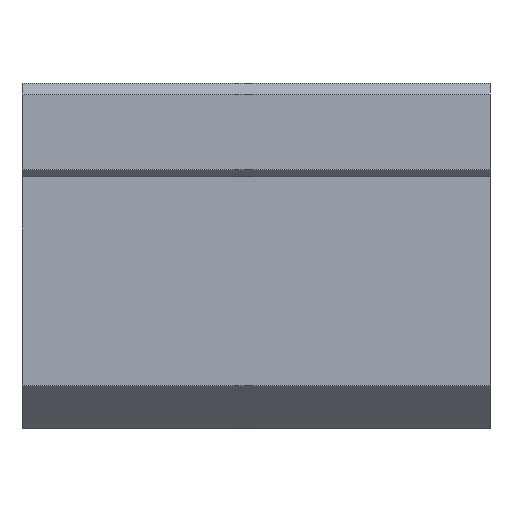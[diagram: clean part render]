
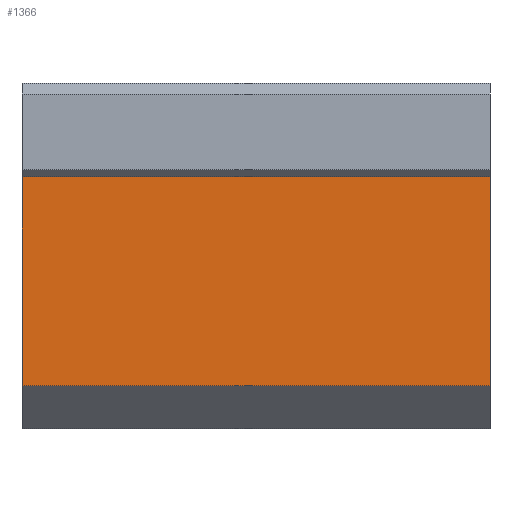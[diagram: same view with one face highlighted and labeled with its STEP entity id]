
A CAD part, front view. The second image highlights one B-rep face of the part: STEP entity #1366.
In plain terms, the highlighted planar face has unit normal (0, -1, 0).
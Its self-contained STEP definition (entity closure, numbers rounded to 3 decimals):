
#1303=CARTESIAN_POINT('',(65.0,-29.,-14.));
#1304=VERTEX_POINT('',#1303);
#1311=CARTESIAN_POINT('',(0.0,-29.,-14.));
#1312=VERTEX_POINT('',#1311);
#1313=CARTESIAN_POINT('',(65.0,-29.,-14.));
#1314=DIRECTION('',(-1.0,0.0,0.0));
#1315=VECTOR('',#1314,65.0);
#1316=LINE('',#1313,#1315);
#1317=EDGE_CURVE('',#1304,#1312,#1316,.T.);
#1336=CARTESIAN_POINT('',(0.0,-29.,-20.));
#1337=DIRECTION('',(0.0,-1.0,0.0));
#1338=DIRECTION('',(0.0,0.0,-1.0));
#1339=AXIS2_PLACEMENT_3D('',#1336,#1337,#1338);
#1340=PLANE('',#1339);
#1341=ORIENTED_EDGE('',*,*,#1317,.F.);
#1342=CARTESIAN_POINT('',(65.0,-29.,15.0));
#1343=VERTEX_POINT('',#1342);
#1344=CARTESIAN_POINT('',(65.0,-29.,-14.));
#1345=DIRECTION('',(0.0,0.0,1.0));
#1346=VECTOR('',#1345,29.);
#1347=LINE('',#1344,#1346);
#1348=EDGE_CURVE('',#1304,#1343,#1347,.T.);
#1349=ORIENTED_EDGE('',*,*,#1348,.T.);
#1350=CARTESIAN_POINT('',(0.0,-29.,15.0));
#1351=VERTEX_POINT('',#1350);
#1352=CARTESIAN_POINT('',(0.0,-29.,15.0));
#1353=DIRECTION('',(1.0,0.0,0.0));
#1354=VECTOR('',#1353,65.0);
#1355=LINE('',#1352,#1354);
#1356=EDGE_CURVE('',#1351,#1343,#1355,.T.);
#1357=ORIENTED_EDGE('',*,*,#1356,.F.);
#1358=CARTESIAN_POINT('',(0.0,-29.,15.0));
#1359=DIRECTION('',(0.0,0.0,-1.0));
#1360=VECTOR('',#1359,29.);
#1361=LINE('',#1358,#1360);
#1362=EDGE_CURVE('',#1351,#1312,#1361,.T.);
#1363=ORIENTED_EDGE('',*,*,#1362,.T.);
#1364=EDGE_LOOP('',(#1341,#1349,#1357,#1363));
#1365=FACE_OUTER_BOUND('',#1364,.T.);
#1366=ADVANCED_FACE('',(#1365),#1340,.T.);
